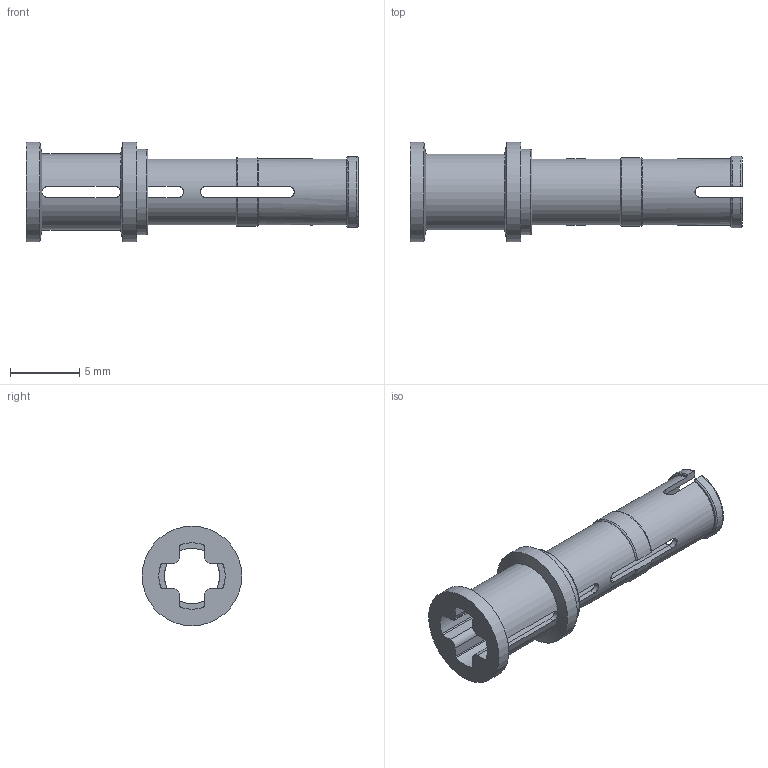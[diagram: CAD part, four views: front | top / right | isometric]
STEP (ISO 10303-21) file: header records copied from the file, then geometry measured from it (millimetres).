
FILE_DESCRIPTION(/* description */ ('Unknown'),/* implementation_level */ '2;1');
FILE_NAME(/* name */ 'ClGray_4211865_AVV',/* time_stamp */ '2025-07-21T23:54:03+02:00',/* author */ ('Unknown'),/* organization */ ('Unknown'),/* preprocessor_version */ 'ST-DEVELOPER v19.4',/* originating_system */ 'Solid Edge',/* authorisation */ 'Unknown');
FILE_SCHEMA (('AUTOMOTIVE_DESIGN {1 0 10303 214 3 1 1}'));
Length unit declared in the file: millimetre
Products named in the file (1): ClGray_4211865_AVV
Bounding box: 24 x 7.2 x 7.2 mm (x, y, z)
Volume: 207 mm3; surface area: 801.3 mm2
Topology: 1 solids, 1 shells, 90 faces, 261 edges, 168 vertices
Faces by surface type: cylinder 39, plane 39, torus 9, cone 3
Full cylindrical faces by diameter (mm): 4 x1, 4.8 x2, 7.2 x2
Entity records: 2988 total; most frequent: CARTESIAN_POINT 653, ORIENTED_EDGE 494, DIRECTION 460, EDGE_CURVE 247, AXIS2_PLACEMENT_3D 166, VERTEX_POINT 163, LINE 128, VECTOR 128
